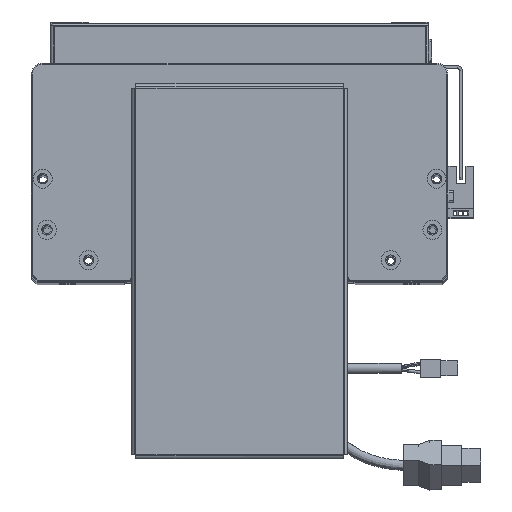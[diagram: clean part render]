
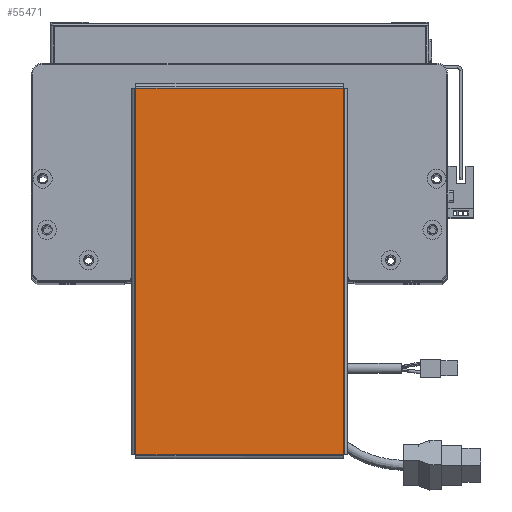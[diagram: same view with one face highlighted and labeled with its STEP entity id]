
A CAD part, top view. The second image highlights one B-rep face of the part: STEP entity #55471.
In plain terms, the highlighted planar face has unit normal (0, 0, 1).
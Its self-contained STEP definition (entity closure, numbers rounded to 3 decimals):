
#2534 = CARTESIAN_POINT ( 'NONE',  ( -96.763, 54.763, 0. ) ) ;
#2691 = VERTEX_POINT ( 'NONE', #44082 ) ;
#2732 = VERTEX_POINT ( 'NONE', #16642 ) ;
#7311 = DIRECTION ( 'NONE',  ( 1., 0., 0. ) ) ;
#7579 = LINE ( 'NONE', #14044, #10740 ) ;
#9971 = VECTOR ( 'NONE', #41888, 1000. ) ;
#10532 = VERTEX_POINT ( 'NONE', #31829 ) ;
#10740 = VECTOR ( 'NONE', #38899, 1000. ) ;
#14044 = CARTESIAN_POINT ( 'NONE',  ( -96.793, -54.763, 0. ) ) ;
#14704 = LINE ( 'NONE', #51474, #9971 ) ;
#16642 = CARTESIAN_POINT ( 'NONE',  ( 96.763, -54.763, 0. ) ) ;
#22262 = DIRECTION ( 'NONE',  ( 0., 1., 0. ) ) ;
#22443 = CARTESIAN_POINT ( 'NONE',  ( 0., 0., 0. ) ) ;
#23159 = LINE ( 'NONE', #42907, #28583 ) ;
#24830 = FACE_OUTER_BOUND ( 'NONE', #39696, .T. ) ;
#28583 = VECTOR ( 'NONE', #37452, 1000. ) ;
#31829 = CARTESIAN_POINT ( 'NONE',  ( 96.763, 54.763, 0. ) ) ;
#35267 = EDGE_CURVE ( 'NONE', #10532, #56866, #23159, .T. ) ;
#36510 = ORIENTED_EDGE ( 'NONE', *, *, #41651, .T. ) ;
#37452 = DIRECTION ( 'NONE',  ( -1., 0., 0. ) ) ;
#37695 = CARTESIAN_POINT ( 'NONE',  ( 96.763, -54.793, 0. ) ) ;
#38899 = DIRECTION ( 'NONE',  ( 1., 0., 0. ) ) ;
#39696 = EDGE_LOOP ( 'NONE', ( #36510, #61356, #41690, #52019 ) ) ;
#41651 = EDGE_CURVE ( 'NONE', #2691, #2732, #7579, .T. ) ;
#41690 = ORIENTED_EDGE ( 'NONE', *, *, #35267, .T. ) ;
#41888 = DIRECTION ( 'NONE',  ( 0., -1., 0. ) ) ;
#42907 = CARTESIAN_POINT ( 'NONE',  ( 96.793, 54.763, 0. ) ) ;
#44082 = CARTESIAN_POINT ( 'NONE',  ( -96.763, -54.763, 0. ) ) ;
#45803 = AXIS2_PLACEMENT_3D ( 'NONE', #22443, #56436, #7311 ) ;
#51474 = CARTESIAN_POINT ( 'NONE',  ( -96.763, 54.793, 0. ) ) ;
#52019 = ORIENTED_EDGE ( 'NONE', *, *, #54933, .T. ) ;
#54933 = EDGE_CURVE ( 'NONE', #56866, #2691, #14704, .T. ) ;
#55471 = ADVANCED_FACE ( 'NONE', ( #24830 ), #61902, .T. ) ;
#56436 = DIRECTION ( 'NONE',  ( 0., 0., 1. ) ) ;
#56866 = VERTEX_POINT ( 'NONE', #2534 ) ;
#60506 = EDGE_CURVE ( 'NONE', #2732, #10532, #60755, .T. ) ;
#60755 = LINE ( 'NONE', #37695, #63894 ) ;
#61356 = ORIENTED_EDGE ( 'NONE', *, *, #60506, .T. ) ;
#61902 = PLANE ( 'NONE',  #45803 ) ;
#63894 = VECTOR ( 'NONE', #22262, 1000. ) ;
